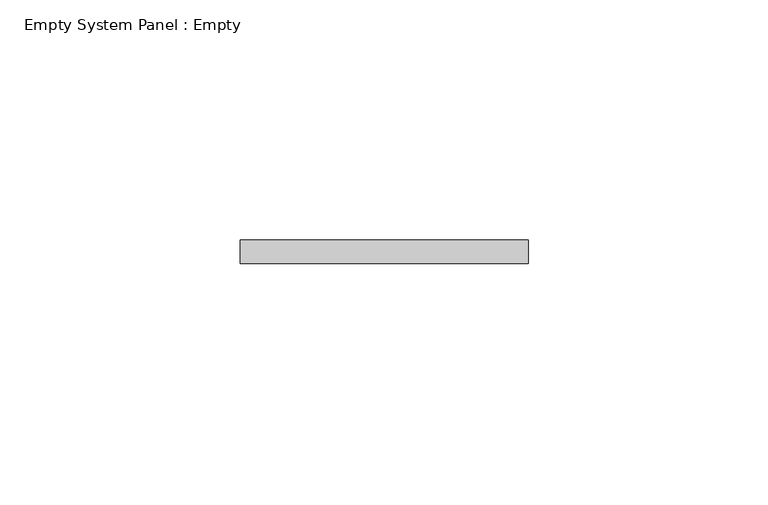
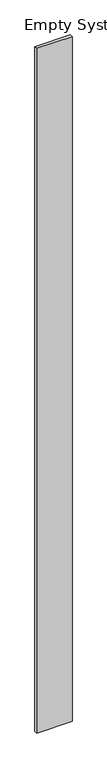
"""IFC4 building model written with IfcOpenShell, lengths in millimetres: plate geometry, Empty System Panel : Empty."""

from ifc_helpers import new_model, si_unit, origin, origin_with_axes, place, context, project, spatial, polyline, outline, extrude, source, transform, mapped, element, save


def empty_system_panel_empty_b723bac0(model_context):
    return source(origin(), model_context, "Body", "SweptSolid", [
        extrude(outline(polyline([(30.0, 97.5), (-30.0, 97.5), (-30.0, 102.5), (30.0, 102.5), (30.0, 97.5)])), origin_with_axes(), (0.0, 0.0, 1.0), 1225.5020157),
    ])


if __name__ == "__main__":
    model = new_model("IFC4")
    model_context = context("Model", 3, world=origin())
    ifc_project = project(units=[si_unit("LENGTHUNIT", "METRE", prefix="MILLI")], contexts=[model_context])
    site = spatial("IfcSite", under=ifc_project)
    building = spatial("IfcBuilding", under=site)
    placement = place(None, origin())
    empty_system_panel_empty_shape = empty_system_panel_empty_b723bac0(model_context)
    element("IfcPlate", 1, ObjectType="Empty System Panel : Empty", at=placement, inside=building, context=model_context, shape_type="MappedRepresentation", body=[
        mapped(empty_system_panel_empty_shape, transform((0.0, 0.0, 0.0), x_axis=(1.0, 0.0, 0.0), y_axis=(0.0, 1.0, 0.0), z_axis=(0.0, 0.0, 1.0))),
    ])
    save(model, "model.ifc")
